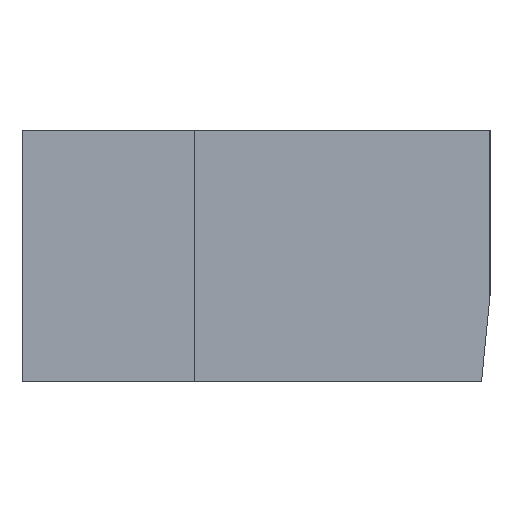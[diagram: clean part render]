
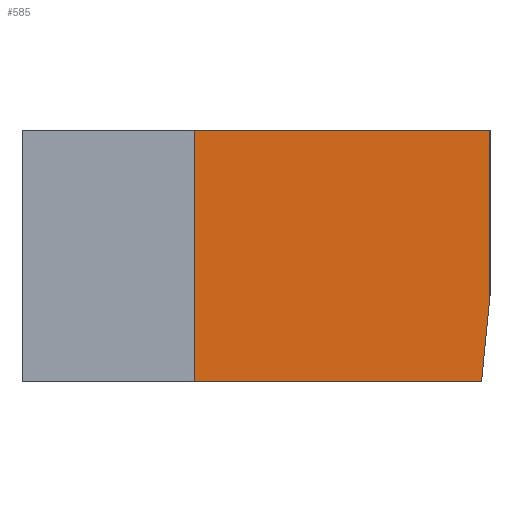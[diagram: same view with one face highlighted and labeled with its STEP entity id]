
A CAD part, left-side view. The second image highlights one B-rep face of the part: STEP entity #585.
In plain terms, the highlighted planar face has unit normal (-1, 0, 0).
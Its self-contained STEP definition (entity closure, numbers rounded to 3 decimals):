
#32 = PLANE('',#33);
#33 = AXIS2_PLACEMENT_3D('',#34,#35,#36);
#34 = CARTESIAN_POINT('',(-13.5,2.,2.4));
#35 = DIRECTION('',(0.,0.,-1.));
#36 = DIRECTION('',(0.,-1.,0.));
#197 = VERTEX_POINT('',#198);
#198 = CARTESIAN_POINT('',(-13.5,0.,2.4));
#212 = PLANE('',#213);
#213 = AXIS2_PLACEMENT_3D('',#214,#215,#216);
#214 = CARTESIAN_POINT('',(-13.5,0.,2.4));
#215 = DIRECTION('',(0.,-0.995,-0.098));
#216 = DIRECTION('',(0.,-0.098,0.995));
#224 = EDGE_CURVE('',#225,#197,#227,.T.);
#225 = VERTEX_POINT('',#226);
#226 = CARTESIAN_POINT('',(-13.5,2.,2.4));
#227 = SURFACE_CURVE('',#228,(#232,#239),.PCURVE_S1.);
#228 = LINE('',#229,#230);
#229 = CARTESIAN_POINT('',(-13.5,2.,2.4));
#230 = VECTOR('',#231,1.);
#231 = DIRECTION('',(0.,-1.,0.));
#232 = PCURVE('',#32,#233);
#233 = DEFINITIONAL_REPRESENTATION('',(#234),#238);
#234 = LINE('',#235,#236);
#235 = CARTESIAN_POINT('',(0.,-0.));
#236 = VECTOR('',#237,1.);
#237 = DIRECTION('',(1.,0.));
#238 = ( GEOMETRIC_REPRESENTATION_CONTEXT(2) 
PARAMETRIC_REPRESENTATION_CONTEXT() REPRESENTATION_CONTEXT('2D SPACE',''
  ) );
#239 = PCURVE('',#240,#245);
#240 = PLANE('',#241);
#241 = AXIS2_PLACEMENT_3D('',#242,#243,#244);
#242 = CARTESIAN_POINT('',(-13.5,0.98,3.282));
#243 = DIRECTION('',(-1.,-0.,-0.));
#244 = DIRECTION('',(0.,0.,-1.));
#245 = DEFINITIONAL_REPRESENTATION('',(#246),#250);
#246 = LINE('',#247,#248);
#247 = CARTESIAN_POINT('',(0.882,-1.02));
#248 = VECTOR('',#249,1.);
#249 = DIRECTION('',(0.,1.));
#250 = ( GEOMETRIC_REPRESENTATION_CONTEXT(2) 
PARAMETRIC_REPRESENTATION_CONTEXT() REPRESENTATION_CONTEXT('2D SPACE',''
  ) );
#268 = PLANE('',#269);
#269 = AXIS2_PLACEMENT_3D('',#270,#271,#272);
#270 = CARTESIAN_POINT('',(-14.2,2.,2.4));
#271 = DIRECTION('',(0.,1.,0.));
#272 = DIRECTION('',(0.,0.,1.));
#404 = PLANE('',#405);
#405 = AXIS2_PLACEMENT_3D('',#406,#407,#408);
#406 = CARTESIAN_POINT('',(-13.5,-0.059,4.15));
#407 = DIRECTION('',(0.,0.,1.));
#408 = DIRECTION('',(0.,1.,0.));
#481 = PLANE('',#482);
#482 = AXIS2_PLACEMENT_3D('',#483,#484,#485);
#483 = CARTESIAN_POINT('',(-13.5,-0.059,3.));
#484 = DIRECTION('',(0.,-1.,0.));
#485 = DIRECTION('',(0.,0.,1.));
#543 = VERTEX_POINT('',#544);
#544 = CARTESIAN_POINT('',(-13.5,-0.059,3.));
#565 = EDGE_CURVE('',#197,#543,#566,.T.);
#566 = SURFACE_CURVE('',#567,(#571,#578),.PCURVE_S1.);
#567 = LINE('',#568,#569);
#568 = CARTESIAN_POINT('',(-13.5,0.,2.4));
#569 = VECTOR('',#570,1.);
#570 = DIRECTION('',(0.,-0.098,0.995));
#571 = PCURVE('',#212,#572);
#572 = DEFINITIONAL_REPRESENTATION('',(#573),#577);
#573 = LINE('',#574,#575);
#574 = CARTESIAN_POINT('',(0.,0.));
#575 = VECTOR('',#576,1.);
#576 = DIRECTION('',(1.,0.));
#577 = ( GEOMETRIC_REPRESENTATION_CONTEXT(2) 
PARAMETRIC_REPRESENTATION_CONTEXT() REPRESENTATION_CONTEXT('2D SPACE',''
  ) );
#578 = PCURVE('',#240,#579);
#579 = DEFINITIONAL_REPRESENTATION('',(#580),#584);
#580 = LINE('',#581,#582);
#581 = CARTESIAN_POINT('',(0.882,0.98));
#582 = VECTOR('',#583,1.);
#583 = DIRECTION('',(-0.995,0.098));
#584 = ( GEOMETRIC_REPRESENTATION_CONTEXT(2) 
PARAMETRIC_REPRESENTATION_CONTEXT() REPRESENTATION_CONTEXT('2D SPACE',''
  ) );
#585 = ADVANCED_FACE('',(#586),#240,.T.);
#586 = FACE_BOUND('',#587,.T.);
#587 = EDGE_LOOP('',(#588,#589,#590,#613,#636));
#588 = ORIENTED_EDGE('',*,*,#224,.T.);
#589 = ORIENTED_EDGE('',*,*,#565,.T.);
#590 = ORIENTED_EDGE('',*,*,#591,.T.);
#591 = EDGE_CURVE('',#543,#592,#594,.T.);
#592 = VERTEX_POINT('',#593);
#593 = CARTESIAN_POINT('',(-13.5,-0.059,4.15));
#594 = SURFACE_CURVE('',#595,(#599,#606),.PCURVE_S1.);
#595 = LINE('',#596,#597);
#596 = CARTESIAN_POINT('',(-13.5,-0.059,3.));
#597 = VECTOR('',#598,1.);
#598 = DIRECTION('',(0.,0.,1.));
#599 = PCURVE('',#240,#600);
#600 = DEFINITIONAL_REPRESENTATION('',(#601),#605);
#601 = LINE('',#602,#603);
#602 = CARTESIAN_POINT('',(0.282,1.039));
#603 = VECTOR('',#604,1.);
#604 = DIRECTION('',(-1.,0.));
#605 = ( GEOMETRIC_REPRESENTATION_CONTEXT(2) 
PARAMETRIC_REPRESENTATION_CONTEXT() REPRESENTATION_CONTEXT('2D SPACE',''
  ) );
#606 = PCURVE('',#481,#607);
#607 = DEFINITIONAL_REPRESENTATION('',(#608),#612);
#608 = LINE('',#609,#610);
#609 = CARTESIAN_POINT('',(0.,0.));
#610 = VECTOR('',#611,1.);
#611 = DIRECTION('',(1.,0.));
#612 = ( GEOMETRIC_REPRESENTATION_CONTEXT(2) 
PARAMETRIC_REPRESENTATION_CONTEXT() REPRESENTATION_CONTEXT('2D SPACE',''
  ) );
#613 = ORIENTED_EDGE('',*,*,#614,.T.);
#614 = EDGE_CURVE('',#592,#615,#617,.T.);
#615 = VERTEX_POINT('',#616);
#616 = CARTESIAN_POINT('',(-13.5,2.,4.15));
#617 = SURFACE_CURVE('',#618,(#622,#629),.PCURVE_S1.);
#618 = LINE('',#619,#620);
#619 = CARTESIAN_POINT('',(-13.5,-0.059,4.15));
#620 = VECTOR('',#621,1.);
#621 = DIRECTION('',(0.,1.,0.));
#622 = PCURVE('',#240,#623);
#623 = DEFINITIONAL_REPRESENTATION('',(#624),#628);
#624 = LINE('',#625,#626);
#625 = CARTESIAN_POINT('',(-0.868,1.039));
#626 = VECTOR('',#627,1.);
#627 = DIRECTION('',(0.,-1.));
#628 = ( GEOMETRIC_REPRESENTATION_CONTEXT(2) 
PARAMETRIC_REPRESENTATION_CONTEXT() REPRESENTATION_CONTEXT('2D SPACE',''
  ) );
#629 = PCURVE('',#404,#630);
#630 = DEFINITIONAL_REPRESENTATION('',(#631),#635);
#631 = LINE('',#632,#633);
#632 = CARTESIAN_POINT('',(0.,0.));
#633 = VECTOR('',#634,1.);
#634 = DIRECTION('',(1.,0.));
#635 = ( GEOMETRIC_REPRESENTATION_CONTEXT(2) 
PARAMETRIC_REPRESENTATION_CONTEXT() REPRESENTATION_CONTEXT('2D SPACE',''
  ) );
#636 = ORIENTED_EDGE('',*,*,#637,.T.);
#637 = EDGE_CURVE('',#615,#225,#638,.T.);
#638 = SURFACE_CURVE('',#639,(#643,#650),.PCURVE_S1.);
#639 = LINE('',#640,#641);
#640 = CARTESIAN_POINT('',(-13.5,2.,4.15));
#641 = VECTOR('',#642,1.);
#642 = DIRECTION('',(0.,0.,-1.));
#643 = PCURVE('',#240,#644);
#644 = DEFINITIONAL_REPRESENTATION('',(#645),#649);
#645 = LINE('',#646,#647);
#646 = CARTESIAN_POINT('',(-0.868,-1.02));
#647 = VECTOR('',#648,1.);
#648 = DIRECTION('',(1.,0.));
#649 = ( GEOMETRIC_REPRESENTATION_CONTEXT(2) 
PARAMETRIC_REPRESENTATION_CONTEXT() REPRESENTATION_CONTEXT('2D SPACE',''
  ) );
#650 = PCURVE('',#268,#651);
#651 = DEFINITIONAL_REPRESENTATION('',(#652),#656);
#652 = LINE('',#653,#654);
#653 = CARTESIAN_POINT('',(1.75,0.7));
#654 = VECTOR('',#655,1.);
#655 = DIRECTION('',(-1.,0.));
#656 = ( GEOMETRIC_REPRESENTATION_CONTEXT(2) 
PARAMETRIC_REPRESENTATION_CONTEXT() REPRESENTATION_CONTEXT('2D SPACE',''
  ) );
